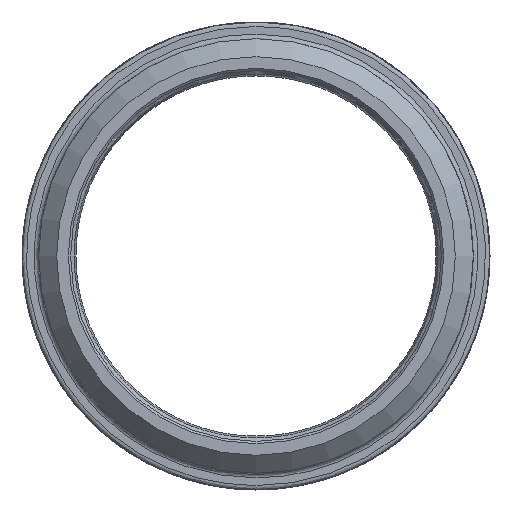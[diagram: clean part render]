
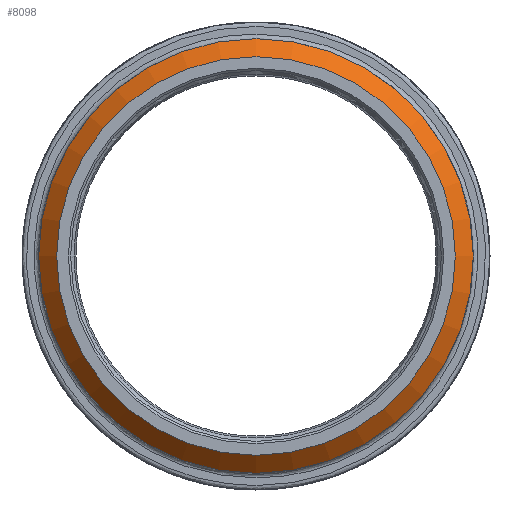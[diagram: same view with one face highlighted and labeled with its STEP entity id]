
A CAD part, left-side view. The second image highlights one B-rep face of the part: STEP entity #8098.
In plain terms, the highlighted conical face has half-angle 45 degrees and reference radius 24.15 mm.
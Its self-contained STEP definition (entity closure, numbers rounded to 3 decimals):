
#1049 = DIRECTION ( 'NONE',  ( 1., 0., 0. ) ) ;
#1234 = VERTEX_POINT ( 'NONE', #6444 ) ;
#2497 = DIRECTION ( 'NONE',  ( 1., 0., 0. ) ) ;
#3007 = CARTESIAN_POINT ( 'NONE',  ( -48., 26., -26.026 ) ) ;
#3654 = DIRECTION ( 'NONE',  ( 0., -1., 0. ) ) ;
#4157 = AXIS2_PLACEMENT_3D ( 'NONE', #3007, #1049, #9068 ) ;
#4819 = CONICAL_SURFACE ( 'NONE', #4157, 24.15, 0.785 ) ;
#5479 = AXIS2_PLACEMENT_3D ( 'NONE', #13332, #8197, #12329 ) ;
#6444 = CARTESIAN_POINT ( 'NONE',  ( -50., 48.15, -26.026 ) ) ;
#6877 = VERTEX_POINT ( 'NONE', #7072 ) ;
#7072 = CARTESIAN_POINT ( 'NONE',  ( -48., 1.85, -26.026 ) ) ;
#7629 = AXIS2_PLACEMENT_3D ( 'NONE', #8950, #2497, #3654 ) ;
#8098 = ADVANCED_FACE ( 'NONE', ( #13370, #10287 ), #4819, .T. ) ;
#8197 = DIRECTION ( 'NONE',  ( 1., 0., 0. ) ) ;
#8515 = EDGE_CURVE ( 'NONE', #6877, #6877, #13256, .T. ) ;
#8950 = CARTESIAN_POINT ( 'NONE',  ( -48., 26., -26.026 ) ) ;
#9068 = DIRECTION ( 'NONE',  ( 0., 1., 0. ) ) ;
#9176 = ORIENTED_EDGE ( 'NONE', *, *, #10187, .T. ) ;
#9259 = ORIENTED_EDGE ( 'NONE', *, *, #8515, .F. ) ;
#10187 = EDGE_CURVE ( 'NONE', #1234, #1234, #10916, .T. ) ;
#10287 = FACE_BOUND ( 'NONE', #11903, .T. ) ;
#10916 = CIRCLE ( 'NONE', #5479, 22.15 ) ;
#11903 = EDGE_LOOP ( 'NONE', ( #9176 ) ) ;
#12329 = DIRECTION ( 'NONE',  ( 0., 1., 0. ) ) ;
#12340 = EDGE_LOOP ( 'NONE', ( #9259 ) ) ;
#13256 = CIRCLE ( 'NONE', #7629, 24.15 ) ;
#13332 = CARTESIAN_POINT ( 'NONE',  ( -50., 26., -26.026 ) ) ;
#13370 = FACE_OUTER_BOUND ( 'NONE', #12340, .T. ) ;
